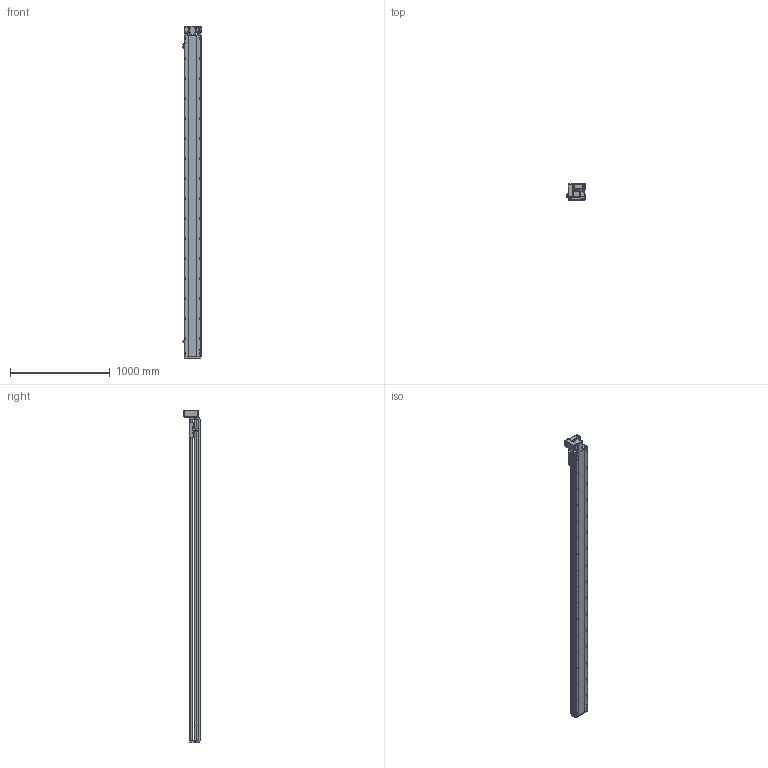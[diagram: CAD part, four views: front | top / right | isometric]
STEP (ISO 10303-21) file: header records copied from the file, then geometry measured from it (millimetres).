
FILE_DESCRIPTION (( 'STEP AP214' ), '1' );
FILE_NAME ('RTB17S-XX-2950-LW-M40-C4.STEP', '2025-12-11T07:20:13', ( '' ), ( '' ), 'SwSTEP 2.0', 'SolidWorks 2018', '' );
FILE_SCHEMA (( 'AUTOMOTIVE_DESIGN' ));
Length unit declared in the file: millimetre
Products named in the file (14): 400W侜督萇儂^RTB17S-XX-XX-LW-M40-C4; RTB14-L-018P^RTB17S-LW-々湍釱蚾饜-400W_RTB17S-XX-XX-LW-M40-C4; RTB14-L-005P--轴承塑胶压盖^RTB17S-LW-皮带座装配-400W_RTB17S-XX-XX-LW-M40-C4; RTB17-R-011菁釱^RTB17S-XX-XX-LW-M40-C4; RTB17S-LW-々湍釱蚾饜-400W^RTB17S-XX-XX-LW-M40-C4; RTB14-L-008-M20--萇儂啣^RTB17S-LW-々湍釱蚾饜-400W_RTB17S-XX-XX-LW-M40-C4; RTB17S-L-004佪裝蹟譫蟀諉釱^RTB17S-XX-XX-LW-M40-C4; RTB17S-L-014-T20--々湍釱^RTB17S-LW-々湍釱蚾饜-400W_RTB17S-XX-XX-LW-M40-C4; OMRON EE-SX672 传感器^RTB17S-XX-XX-LW-M40-C4; RTB14-L-017P^RTB17S-LW-々湍釱蚾饜-400W_RTB17S-XX-XX-LW-M40-C4; RTB17S-L-007奻裔^RTB17S-XX-XX-LW-M40-C4; RTB17S-XX-2950-LW-M40-C4; RTB17S-L-001耜醱啣^RTB17S-XX-XX-LW-M40-C4; RTH13-BL-012覜茼え俋离^RTB17S-XX-XX-LW-M40-C4
Assembly tree (16 placements, depth 3):
  RTB17S-XX-2950-LW-M40-C4
    RTB17-R-011菁釱^RTB17S-XX-XX-LW-M40-C4
    RTB17S-L-007奻裔^RTB17S-XX-XX-LW-M40-C4
    OMRON EE-SX672 传感器^RTB17S-XX-XX-LW-M40-C4  x3
    RTB17S-L-001耜醱啣^RTB17S-XX-XX-LW-M40-C4
    400W侜督萇儂^RTB17S-XX-XX-LW-M40-C4
    RTB17S-L-004佪裝蹟譫蟀諉釱^RTB17S-XX-XX-LW-M40-C4
    RTH13-BL-012覜茼え俋离^RTB17S-XX-XX-LW-M40-C4
    RTB17S-LW-々湍釱蚾饜-400W^RTB17S-XX-XX-LW-M40-C4
      RTB17S-L-014-T20--々湍釱^RTB17S-LW-々湍釱蚾饜-400W_RTB17S-XX-XX-LW-M40-C4
      RTB14-L-005P--轴承塑胶压盖^RTB17S-LW-皮带座装配-400W_RTB17S-XX-XX-LW-M40-C4
      RTB14-L-008-M20--萇儂啣^RTB17S-LW-々湍釱蚾饜-400W_RTB17S-XX-XX-LW-M40-C4
      RTB14-L-017P^RTB17S-LW-々湍釱蚾饜-400W_RTB17S-XX-XX-LW-M40-C4  x2
      RTB14-L-018P^RTB17S-LW-々湍釱蚾饜-400W_RTB17S-XX-XX-LW-M40-C4
Bounding box: 186 x 160.5 x 3322.5 mm (x, y, z)
Volume: 28276429.7 mm3; surface area: 3232183 mm2
Topology: 15 solids, 15 shells, 2365 faces, 6627 edges, 4329 vertices
Faces by surface type: plane 1088, cylinder 829, bspline 301, cone 139, torus 8
Entity records: 70313 total; most frequent: CARTESIAN_POINT 20032, ORIENTED_EDGE 10098, DIRECTION 9296, EDGE_CURVE 5049, VERTEX_POINT 3317, AXIS2_PLACEMENT_3D 3247, VECTOR 2802, LINE 2802
